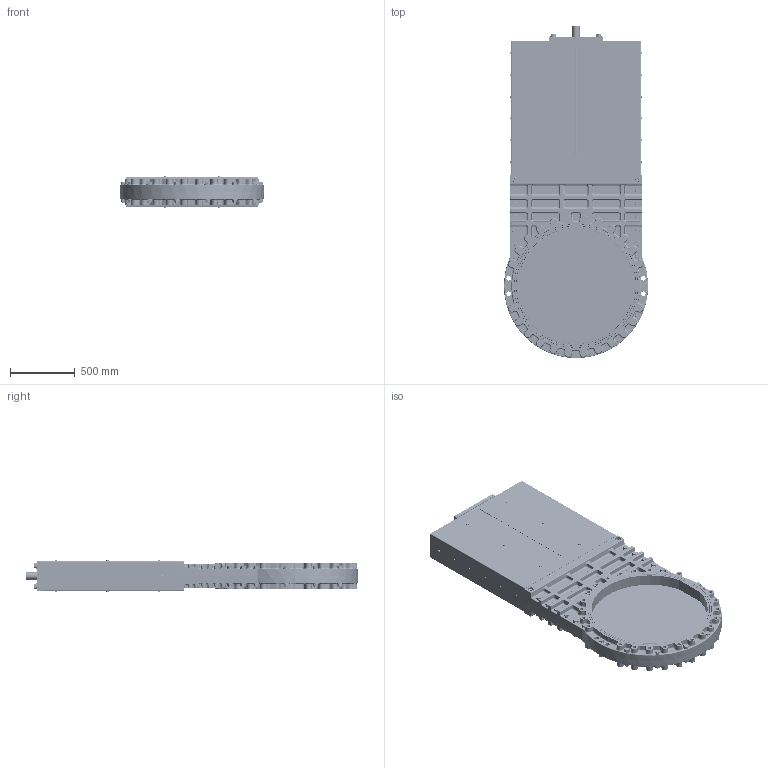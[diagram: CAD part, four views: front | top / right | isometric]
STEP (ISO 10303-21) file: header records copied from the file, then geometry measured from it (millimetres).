
FILE_DESCRIPTION(/* description */ (''),/* implementation_level */ '2;1');
FILE_NAME(/* name */ '明杆刀阀 DN900带上法兰简图.stp',/* time_stamp */ '2025-12-19T11:32:14+08:00',/* author */ (''),/* organization */ (''),/* preprocessor_version */ 'ST-DEVELOPER v15',/* originating_system */ 'SIEMENS PLM Software NX 10.0',/* authorisation */ '');
FILE_SCHEMA (('AP203_CONFIGURATION_CONTROLLED_3D_DESIGN_OF_MECHANICAL_PARTS_AND_ASSEMBLIES_MIM_LF { 1 0 10303 403 2 1 2}'));
Products named in the file (1): 36A882E2ga10
Bounding box: 1115.24 x 2570.31 x 246.8 mm (x, y, z)
Volume: 164110283.2 mm3; surface area: 12733217.1 mm2
Topology: 1 solids, 72 shells, 4694 faces, 10843 edges, 6732 vertices
Faces by surface type: plane 1874, cylinder 1247, bspline 728, cone 653, torus 184, sphere 8
Full cylindrical faces by diameter (mm): 7.323 x12, 8 x24, 8.4 x12, 9 x12, 9.188 x12, 10 x26, 10.5 x12, 11.4 x12, 14 x24, 15.4 x12, 16 x60, 17 x24, 18 x24, 20 x18, 22 x4, 22.579 x24, 24 x46, 25.5 x44, 26 x21, 26.5 x52, 30 x24, 32 x4, 33 x24, 35 x4, 35.556 x2, 45 x44, 46 x2, 50 x4, 51 x1, 52 x4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
Entity records: 161305 total; most frequent: CARTESIAN_POINT 49892, DIRECTION 18952, ORIENTED_EDGE 18706, EDGE_CURVE 9353, AXIS2_PLACEMENT_3D 7982, EDGE_LOOP 6429, VERTEX_POINT 6302, ADVANCED_FACE 4694
